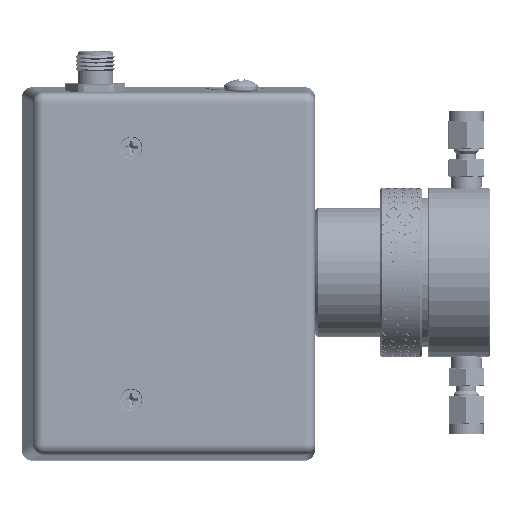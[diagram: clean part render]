
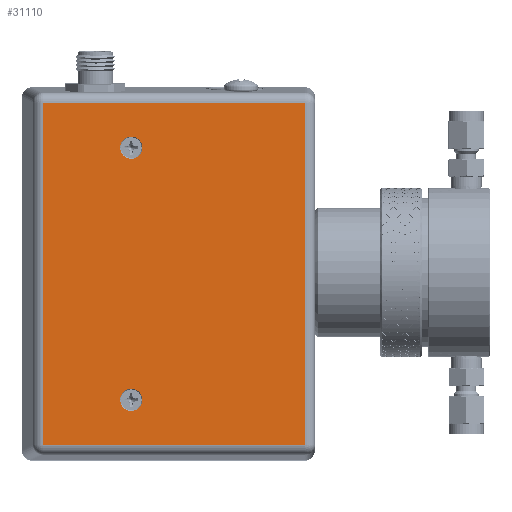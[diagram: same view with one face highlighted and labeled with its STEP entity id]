
A CAD part, left-side view. The second image highlights one B-rep face of the part: STEP entity #31110.
In plain terms, the highlighted planar face has unit normal (-0.999, -0.035, 0).
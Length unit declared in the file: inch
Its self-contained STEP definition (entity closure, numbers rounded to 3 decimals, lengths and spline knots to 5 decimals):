
#4734 = CARTESIAN_POINT ( 'NONE',  ( 0.01267, 0.47731, -3.41194 ) ) ;
#8666 = ORIENTED_EDGE ( 'NONE', *, *, #126928, .F. ) ;
#9181 = CARTESIAN_POINT ( 'NONE',  ( -0.06367, 2.66333, 0.51006 ) ) ;
#10081 = EDGE_CURVE ( 'NONE', #109840, #25349, #67067, .T. ) ;
#11865 = VECTOR ( 'NONE', #105310, 39.37008 ) ;
#14061 = DIRECTION ( 'NONE',  ( -0.999, -0.035, 0. ) ) ;
#14907 = LINE ( 'NONE', #4734, #30475 ) ;
#14961 = AXIS2_PLACEMENT_3D ( 'NONE', #106650, #14061, #96516 ) ;
#17091 = ORIENTED_EDGE ( 'NONE', *, *, #44872, .T. ) ;
#21270 = CARTESIAN_POINT ( 'NONE',  ( 0.01939, 0.28478, -3.41194 ) ) ;
#22216 = DIRECTION ( 'NONE',  ( -0.999, -0.035, 0. ) ) ;
#24143 = VERTEX_POINT ( 'NONE', #54304 ) ;
#24187 = CARTESIAN_POINT ( 'NONE',  ( 0.01939, 0.28478, -3.21929 ) ) ;
#25349 = VERTEX_POINT ( 'NONE', #102374 ) ;
#30475 = VECTOR ( 'NONE', #118903, 39.37008 ) ;
#31110 = ADVANCED_FACE ( 'NONE', ( #32054, #51661, #123949 ), #95556, .T. ) ;
#32054 = FACE_BOUND ( 'NONE', #59338, .T. ) ;
#32316 = CARTESIAN_POINT ( 'NONE',  ( 0.01267, 0.47731, 1.07541 ) ) ;
#34002 = CARTESIAN_POINT ( 'NONE',  ( 0.01939, 0.28478, 1.07541 ) ) ;
#38623 = ORIENTED_EDGE ( 'NONE', *, *, #44045, .F. ) ;
#40084 = ORIENTED_EDGE ( 'NONE', *, *, #60155, .T. ) ;
#43604 = CARTESIAN_POINT ( 'NONE',  ( 0.01267, 0.47731, -3.21929 ) ) ;
#43851 = CARTESIAN_POINT ( 'NONE',  ( -0.10231, 3.77, -3.41194 ) ) ;
#44045 = EDGE_CURVE ( 'NONE', #48174, #24143, #63171, .T. ) ;
#44872 = EDGE_CURVE ( 'NONE', #116231, #109840, #14907, .T. ) ;
#48174 = VERTEX_POINT ( 'NONE', #105526 ) ;
#48481 = ORIENTED_EDGE ( 'NONE', *, *, #119594, .F. ) ;
#50217 = EDGE_LOOP ( 'NONE', ( #8666, #115172 ) ) ;
#51661 = FACE_BOUND ( 'NONE', #50217, .T. ) ;
#52080 = VECTOR ( 'NONE', #86012, 39.37008 ) ;
#54304 = CARTESIAN_POINT ( 'NONE',  ( -0.0588, 2.52391, -2.65494 ) ) ;
#59338 = EDGE_LOOP ( 'NONE', ( #38623, #48481 ) ) ;
#60155 = EDGE_CURVE ( 'NONE', #126302, #116231, #126185, .T. ) ;
#62780 = DIRECTION ( 'NONE',  ( 0., 0., -1. ) ) ;
#63171 = CIRCLE ( 'NONE', #121422, 0.1395 ) ;
#66912 = CIRCLE ( 'NONE', #133747, 0.1395 ) ;
#67067 = LINE ( 'NONE', #34002, #52080 ) ;
#67986 = DIRECTION ( 'NONE',  ( -0.035, 0.999, 0. ) ) ;
#68424 = VERTEX_POINT ( 'NONE', #70745 ) ;
#70745 = CARTESIAN_POINT ( 'NONE',  ( -0.06854, 2.80274, 0.51006 ) ) ;
#77869 = VERTEX_POINT ( 'NONE', #131093 ) ;
#81083 = EDGE_CURVE ( 'NONE', #25349, #126302, #105361, .T. ) ;
#81407 = AXIS2_PLACEMENT_3D ( 'NONE', #21270, #82715, #105033 ) ;
#82715 = DIRECTION ( 'NONE',  ( -0.999, -0.035, 0. ) ) ;
#86012 = DIRECTION ( 'NONE',  ( -0.035, 0.999, 0. ) ) ;
#86739 = EDGE_LOOP ( 'NONE', ( #114202, #40084, #17091, #109536 ) ) ;
#87488 = DIRECTION ( 'NONE',  ( -0.035, 0.999, 0. ) ) ;
#88280 = DIRECTION ( 'NONE',  ( -0.999, -0.035, 0. ) ) ;
#95556 = PLANE ( 'NONE',  #81407 ) ;
#96516 = DIRECTION ( 'NONE',  ( -0.035, 0.999, 0. ) ) ;
#99161 = EDGE_CURVE ( 'NONE', #77869, #68424, #66912, .T. ) ;
#99217 = CIRCLE ( 'NONE', #14961, 0.1395 ) ;
#100866 = DIRECTION ( 'NONE',  ( -0.035, 0.999, 0. ) ) ;
#101545 = CARTESIAN_POINT ( 'NONE',  ( -0.10231, 3.77, -3.21929 ) ) ;
#102374 = CARTESIAN_POINT ( 'NONE',  ( -0.10231, 3.77, 1.07541 ) ) ;
#103895 = CIRCLE ( 'NONE', #129695, 0.1395 ) ;
#105033 = DIRECTION ( 'NONE',  ( -0.035, 0.999, 0. ) ) ;
#105310 = DIRECTION ( 'NONE',  ( 0.035, -0.999, 0. ) ) ;
#105361 = LINE ( 'NONE', #43851, #108726 ) ;
#105526 = CARTESIAN_POINT ( 'NONE',  ( -0.06854, 2.80274, -2.65494 ) ) ;
#106650 = CARTESIAN_POINT ( 'NONE',  ( -0.06367, 2.66333, -2.65494 ) ) ;
#108726 = VECTOR ( 'NONE', #62780, 39.37008 ) ;
#109536 = ORIENTED_EDGE ( 'NONE', *, *, #10081, .T. ) ;
#109840 = VERTEX_POINT ( 'NONE', #32316 ) ;
#114202 = ORIENTED_EDGE ( 'NONE', *, *, #81083, .T. ) ;
#115172 = ORIENTED_EDGE ( 'NONE', *, *, #99161, .F. ) ;
#116231 = VERTEX_POINT ( 'NONE', #43604 ) ;
#118903 = DIRECTION ( 'NONE',  ( 0., 0., 1. ) ) ;
#119594 = EDGE_CURVE ( 'NONE', #24143, #48174, #99217, .T. ) ;
#121422 = AXIS2_PLACEMENT_3D ( 'NONE', #129347, #130693, #87488 ) ;
#123949 = FACE_OUTER_BOUND ( 'NONE', #86739, .T. ) ;
#126185 = LINE ( 'NONE', #24187, #11865 ) ;
#126302 = VERTEX_POINT ( 'NONE', #101545 ) ;
#126928 = EDGE_CURVE ( 'NONE', #68424, #77869, #103895, .T. ) ;
#129347 = CARTESIAN_POINT ( 'NONE',  ( -0.06367, 2.66333, -2.65494 ) ) ;
#129695 = AXIS2_PLACEMENT_3D ( 'NONE', #9181, #88280, #67986 ) ;
#130693 = DIRECTION ( 'NONE',  ( -0.999, -0.035, 0. ) ) ;
#131093 = CARTESIAN_POINT ( 'NONE',  ( -0.0588, 2.52391, 0.51006 ) ) ;
#131876 = CARTESIAN_POINT ( 'NONE',  ( -0.06367, 2.66333, 0.51006 ) ) ;
#133747 = AXIS2_PLACEMENT_3D ( 'NONE', #131876, #22216, #100866 ) ;
